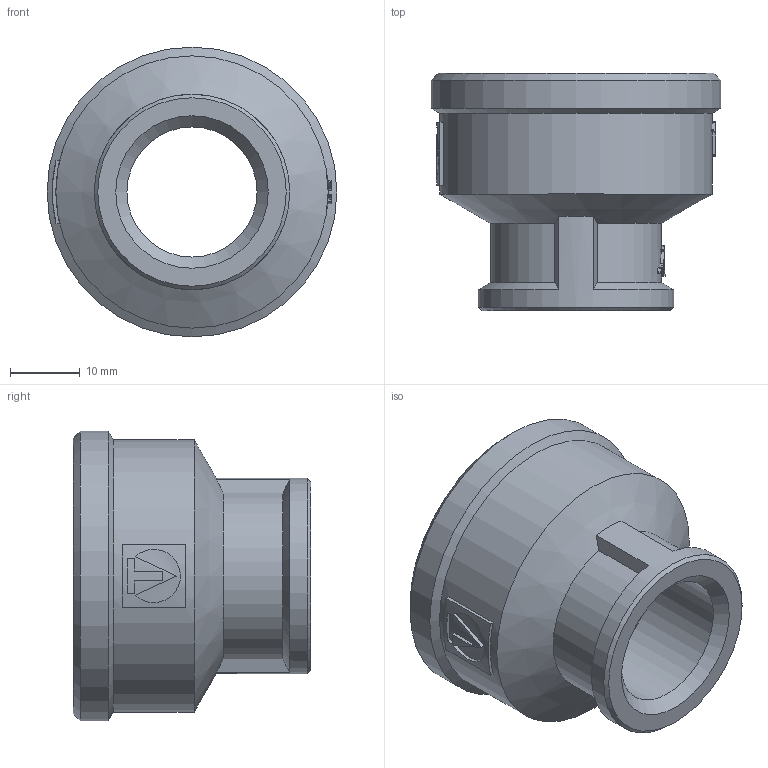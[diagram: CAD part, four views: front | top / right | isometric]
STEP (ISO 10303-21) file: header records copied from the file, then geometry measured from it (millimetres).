
FILE_DESCRIPTION(('STEP AP203'), '1');
FILE_NAME('ÂÐ.714361.004 - VTr.240.N.0604 Ìóôòà G1õG1-2', '2024-06-27T08:09:01', ('Boss'), (''), 'C3D Converter', 'C3D Toolkit', '');
FILE_SCHEMA(('CONFIG_CONTROL_DESIGN'));
Length unit declared in the file: millimetre
Products named in the file (1): ВР.714361.004
Bounding box: 41.5 x 34 x 41.5 mm (x, y, z)
Volume: 13882.3 mm3; surface area: 7926.2 mm2
Topology: 1 solids, 1 shells, 168 faces, 460 edges, 304 vertices
Faces by surface type: extrusion 85, plane 55, cylinder 19, cone 9
Full cylindrical faces by diameter (mm): 18.632 x1, 28 x1, 30.292 x1, 39 x1, 41.5 x1
Entity records: 7192 total; most frequent: CARTESIAN_POINT 3446, ORIENTED_EDGE 894, DIRECTION 500, EDGE_CURVE 447, VERTEX_POINT 304, B_SPLINE_CURVE_WITH_KNOTS 265, VECTOR 248, EDGE_LOOP 193
